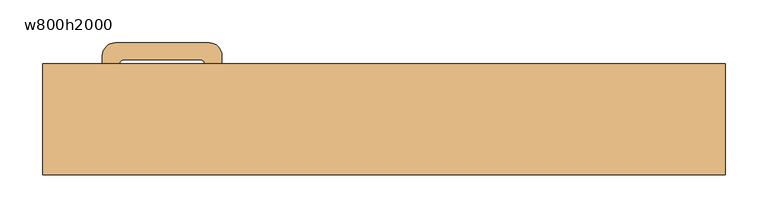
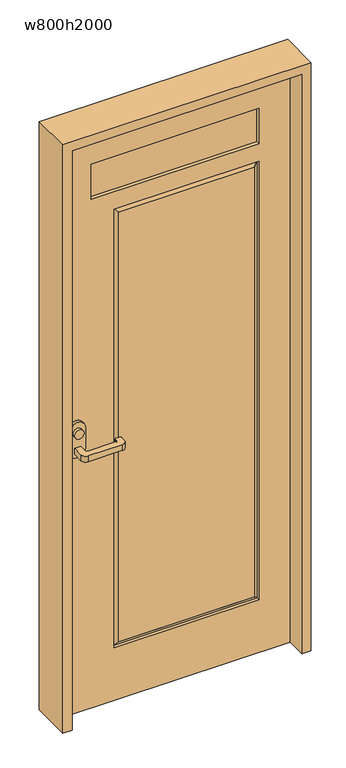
"""IFC4 building model written with IfcOpenShell, lengths in millimetres: door geometry, 片開戸CL2058 : w800h2000."""

import ifcopenshell
import ifcopenshell.guid

model = None  # the IFC model being written
_history = None  # IfcOwnerHistory: only IFC2X3 demands one
_inside = {}  # id of a spatial element -> (the spatial element, [elements in it])
_under = {}  # id of a project, library or spatial element -> (it, [spatial elements below it])
_declared = {}  # id of a project -> (the project, [libraries it declares])
_typed = {}  # id of a type object -> (the type object, [elements of that type])
_made_of = {}  # id of a material, layer set ... -> (it, [elements and type objects made of it])


def new_model(schema):
    """Start an empty IFC model of exactly this schema.

    Asked for "IFC4X3", IfcOpenShell would pick the latest addendum, in which some entities
    have other attributes; the version numbers below select the first issue.
    IFC2X3 requires an IfcOwnerHistory on every rooted entity: one is made here for all.
    """
    global model, _history
    if schema == "IFC4X3":
        model = ifcopenshell.file(schema_version=(4, 3, 0, 0))
    else:
        model = ifcopenshell.file(schema=schema)
    _inside.clear()
    _under.clear()
    _declared.clear()
    _typed.clear()
    _made_of.clear()
    _history = None
    if model.schema == "IFC2X3":
        org = make("IfcOrganization", Name="unknown")
        user = make(
            "IfcPersonAndOrganization",
            ThePerson=make("IfcPerson", FamilyName="unknown"),
            TheOrganization=org,
        )
        app = make(
            "IfcApplication",
            ApplicationDeveloper=org,
            Version="unknown",
            ApplicationFullName="unknown",
            ApplicationIdentifier="unknown",
        )
        _history = make(
            "IfcOwnerHistory",
            OwningUser=user,
            OwningApplication=app,
            ChangeAction="ADDED",
            CreationDate=0,
        )
    return model


def make(cls, **values):
    """One entity of the class cls with the attributes given. An attribute that is None is left unset."""
    return model.create_entity(
        cls, **{name: value for name, value in values.items() if value is not None}
    )


def rooted(cls, **values):
    """An entity with a GlobalId (a new one), such as an element, a storey or a relation."""
    return make(cls, GlobalId=ifcopenshell.guid.new(), OwnerHistory=_history, **values)


def si_unit(unit_type, name, prefix=None):
    """IfcSIUnit, for example si_unit("LENGTHUNIT", "METRE", prefix="MILLI")."""
    return make("IfcSIUnit", UnitType=unit_type, Prefix=prefix, Name=name)


def assignment(units):
    """IfcUnitAssignment: the units of a project."""
    return None if units is None else make("IfcUnitAssignment", Units=units)


def point(xyz):
    """IfcCartesianPoint."""
    return None if xyz is None else make("IfcCartesianPoint", Coordinates=xyz)


def direction(xyz):
    """IfcDirection."""
    return None if xyz is None else make("IfcDirection", DirectionRatios=xyz)


def frame(location, z_axis=None, x_axis=None):
    """IfcAxis2Placement3D, a coordinate frame: its origin and axes. An axis left out is left unset."""
    return make(
        "IfcAxis2Placement3D",
        Location=point(location),
        Axis=direction(z_axis),
        RefDirection=direction(x_axis),
    )


def frame_2d(location, x_axis=None):
    """IfcAxis2Placement2D, a coordinate frame in the plane: its origin and x axis."""
    return make(
        "IfcAxis2Placement2D", Location=point(location), RefDirection=direction(x_axis)
    )


def origin():
    """The frame at (0, 0, 0) with its axes left unset."""
    return frame((0.0, 0.0, 0.0))


def place(relative_to, where):
    """IfcLocalPlacement: puts the frame where relative to a parent placement (None: the world)."""
    return make(
        "IfcLocalPlacement", PlacementRelTo=relative_to, RelativePlacement=where
    )


def context(
    kind, dimensions, precision=None, world=None, true_north=None, identifier=None
):
    """IfcGeometricRepresentationContext, for example the 3D "Model" context."""
    return make(
        "IfcGeometricRepresentationContext",
        ContextIdentifier=identifier,
        ContextType=kind,
        CoordinateSpaceDimension=dimensions,
        Precision=precision,
        WorldCoordinateSystem=world,
        TrueNorth=true_north,
    )


def project(units=None, contexts=None):
    """IfcProject with its units and contexts."""
    return rooted(
        "IfcProject",
        Name="project",
        RepresentationContexts=contexts,
        UnitsInContext=assignment(units),
    )


def spatial(cls, under=None, at=None, **own):
    """A site, building, storey or space (cls), placed at a placement, below another one or the project."""
    s = rooted(cls, ObjectPlacement=at, **own)
    if under is not None:
        _under.setdefault(under.id(), (under, []))[1].append(s)
    return s


def polyline(points):
    """IfcPolyline through the points."""
    return make("IfcPolyline", Points=[point(p) for p in points])


def circle_curve(where, radius):
    """IfcCircle in the frame where."""
    return make("IfcCircle", Position=where, Radius=radius)


def trimmed(basis, trim1, trim2, sense, master):
    """IfcTrimmedCurve: the piece of a basis curve between two trims."""
    return make(
        "IfcTrimmedCurve",
        BasisCurve=basis,
        Trim1=trim1,
        Trim2=trim2,
        SenseAgreement=sense,
        MasterRepresentation=master,
    )


def segment(curve, same_sense, transition):
    """IfcCompositeCurveSegment."""
    return make(
        "IfcCompositeCurveSegment",
        Transition=transition,
        SameSense=same_sense,
        ParentCurve=curve,
    )


def composite_curve(segments, self_intersect=None):
    """IfcCompositeCurve: segments joined end to end."""
    return make("IfcCompositeCurve", Segments=segments, SelfIntersect=self_intersect)


def outline(outer, holes=None, kind="AREA"):
    """IfcArbitraryClosedProfileDef: a profile drawn as a closed curve; with holes, ...WithVoids."""
    if holes is None:
        return make("IfcArbitraryClosedProfileDef", ProfileType=kind, OuterCurve=outer)
    return make(
        "IfcArbitraryProfileDefWithVoids",
        ProfileType=kind,
        OuterCurve=outer,
        InnerCurves=holes,
    )


def extrude(swept, where, along, depth):
    """IfcExtrudedAreaSolid: the profile swept, set in the frame where, extruded along a direction by depth."""
    return make(
        "IfcExtrudedAreaSolid",
        SweptArea=swept,
        Position=where,
        ExtrudedDirection=direction(along),
        Depth=depth,
    )


def faces_of(points, faces, orient=None, outer=None):
    """IfcFace entities. A face is a list of loops; a loop is a list of indices into points, from 0.

    orient and outer hold one flag for each loop. By default every Orientation is true, the
    first loop of a face is its IfcFaceOuterBound and the others are IfcFaceBound.
    """
    made = []
    for i, loops in enumerate(faces):
        bounds = []
        for j, loop in enumerate(loops):
            is_outer = j == 0 if outer is None else outer[i][j]
            bounds.append(
                make(
                    "IfcFaceOuterBound" if is_outer else "IfcFaceBound",
                    Bound=make("IfcPolyLoop", Polygon=[points[k] for k in loop]),
                    Orientation=True if orient is None else orient[i][j],
                )
            )
        made.append(make("IfcFace", Bounds=bounds))
    return made


def faceted_brep(points, faces, orient=None, outer=None, voids=None):
    """IfcFacetedBrep: a solid bounded by flat faces; with voids (closed shells), ...WithVoids."""
    shared = [point(p) for p in points]
    hull = make("IfcClosedShell", CfsFaces=faces_of(shared, faces, orient, outer))
    if voids is None:
        return make("IfcFacetedBrep", Outer=hull)
    return make(
        "IfcFacetedBrepWithVoids",
        Outer=hull,
        Voids=[
            make(cls, CfsFaces=faces_of(shared, fs, o, b)) for cls, fs, o, b in voids
        ],
    )


def shape(context_of_items, identifier, shape_type, items):
    """IfcShapeRepresentation: the items that make up one representation, for example the "Body"."""
    return make(
        "IfcShapeRepresentation",
        ContextOfItems=context_of_items,
        RepresentationIdentifier=identifier,
        RepresentationType=shape_type,
        Items=items,
    )


def source(mapping_origin, context_of_items, identifier, shape_type, items):
    """IfcRepresentationMap: a shape defined once, which mapped items show again and again."""
    return make(
        "IfcRepresentationMap",
        MappingOrigin=mapping_origin,
        MappedRepresentation=shape(context_of_items, identifier, shape_type, items),
    )


def transform(
    local_origin,
    x_axis=None,
    y_axis=None,
    z_axis=None,
    scale=None,
    scale2=None,
    scale3=None,
    uniform=True,
):
    """IfcCartesianTransformationOperator3D, or its non-uniform kind. x_axis, y_axis, z_axis: its Axis1, 2, 3."""
    if uniform:
        return make(
            "IfcCartesianTransformationOperator3D",
            Axis1=direction(x_axis),
            Axis2=direction(y_axis),
            LocalOrigin=point(local_origin),
            Scale=scale,
            Axis3=direction(z_axis),
        )
    return make(
        "IfcCartesianTransformationOperator3DnonUniform",
        Axis1=direction(x_axis),
        Axis2=direction(y_axis),
        LocalOrigin=point(local_origin),
        Scale=scale,
        Axis3=direction(z_axis),
        Scale2=scale2,
        Scale3=scale3,
    )


def mapped(mapping_source, mapping_target):
    """IfcMappedItem: shows the shape of a source again, moved by a transform."""
    return make(
        "IfcMappedItem", MappingSource=mapping_source, MappingTarget=mapping_target
    )


def made_of(thing, what):
    """Note that an element or type object is made of a material, layer set ...; save() writes the relation."""
    if what is not None:
        _made_of.setdefault(what.id(), (what, []))[1].append(thing)
    return thing


def element(
    cls,
    number,
    at=None,
    inside=None,
    cuts=None,
    type_object=None,
    material=None,
    context=None,
    identifier="Body",
    shape_type=None,
    held_by="IfcProductDefinitionShape",
    body=None,
    shapes=None,
    **own,
):
    """One element of the class cls, such as IfcWall. Its Tag is "e" and its number.

    at: its placement. inside: the storey or other place that contains it. cuts: it is an
    opening in that element (IfcRelVoidsElement). A single representation is given by context,
    identifier, shape_type and body (its items); several are given by shapes. held_by: the class
    of the entity that holds the representations. save() writes the other relations.
    """
    e = rooted(cls, Tag="e%d" % number, ObjectPlacement=at, **own)
    if body is not None:
        shapes = [shape(context, identifier, shape_type, body)]
    if shapes is not None:
        e.Representation = make(held_by, Representations=shapes)
    if inside is not None:
        _inside.setdefault(inside.id(), (inside, []))[1].append(e)
    if cuts is not None:
        rooted(
            "IfcRelVoidsElement", RelatingBuildingElement=cuts, RelatedOpeningElement=e
        )
    if type_object is not None:
        _typed.setdefault(type_object.id(), (type_object, []))[1].append(e)
    return made_of(e, material)


def aggregate(whole, parts):
    """IfcRelAggregates: a whole, such as a stair, and the parts it consists of."""
    return rooted("IfcRelAggregates", RelatingObject=whole, RelatedObjects=parts)


def save(model, path):
    """Write the relations noted so far, then the file.

    IfcRelAggregates (storeys below a building ...), IfcRelContainedInSpatialStructure (elements
    in a storey), IfcRelDefinesByType, IfcRelAssociatesMaterial and IfcRelDeclares: one each for
    every whole, place, type object, material and project.
    """
    for whole, parts in _under.values():
        aggregate(whole, parts)
    for where, things in _inside.values():
        rooted(
            "IfcRelContainedInSpatialStructure",
            RelatedElements=things,
            RelatingStructure=where,
        )
    for kind, things in _typed.values():
        rooted("IfcRelDefinesByType", RelatedObjects=things, RelatingType=kind)
    for what, things in _made_of.values():
        rooted("IfcRelAssociatesMaterial", RelatedObjects=things, RelatingMaterial=what)
    for by, libraries in _declared.values():
        rooted("IfcRelDeclares", RelatingContext=by, RelatedDefinitions=libraries)
    model.write(path)


def w800h2000_ccb03061(model_context):
    return source(origin(), model_context, "Body", "SolidModel", [
        extrude(outline(composite_curve([segment(polyline([(-310.0, 65.0), (-310.0, 40.0), (-330.0, 40.0), (-330.0, 75.0)]), True, "CONTINUOUS"), segment(trimmed(circle_curve(frame_2d((-315.0, 75.0)), 15.0), [point((-330.0, 75.0))], [point((-315.0, 90.0))], False, "CARTESIAN"), True, "CONTINUOUS"), segment(polyline([(-315.0, 90.0), (-205.0, 90.0)]), True, "CONTINUOUS"), segment(trimmed(circle_curve(frame_2d((-205.0, 75.0)), 15.0), [point((-205.0, 90.0))], [point((-190.0, 75.0))], False, "CARTESIAN"), True, "CONTINUOUS"), segment(polyline([(-190.0, 75.0), (-190.0, 60.0)]), True, "CONTINUOUS"), segment(trimmed(circle_curve(frame_2d((-195.0, 60.0)), 5.0), [point((-190.0, 60.0))], [point((-195.0, 55.0))], False, "CARTESIAN"), True, "CONTINUOUS"), segment(polyline([(-195.0, 55.0), (-205.0, 55.0)]), True, "CONTINUOUS"), segment(trimmed(circle_curve(frame_2d((-205.0, 60.0)), 5.0), [point((-205.0, 55.0))], [point((-210.0, 60.0))], False, "CARTESIAN"), True, "CONTINUOUS"), segment(polyline([(-210.0, 60.0), (-210.0, 65.0)]), True, "CONTINUOUS"), segment(trimmed(circle_curve(frame_2d((-215.0, 65.0)), 5.0), [point((-210.0, 65.0))], [point((-215.0, 70.0))], True, "CARTESIAN"), True, "CONTINUOUS"), segment(polyline([(-215.0, 70.0), (-305.0, 70.0)]), True, "CONTINUOUS"), segment(trimmed(circle_curve(frame_2d((-305.0, 65.0)), 5.0), [point((-305.0, 70.0))], [point((-310.0, 65.0))], True, "CARTESIAN"), True, "CONTINUOUS")], self_intersect=False)), frame((0.0, 0.0, 890.0), z_axis=(0.0, 0.0, 1.0), x_axis=(1.0, 0.0, 0.0)), (0.0, 0.0, 1.0), 20.0),
        extrude(outline(composite_curve([segment(trimmed(circle_curve(frame_2d((-305.0, -35.0)), 5.0), [point((-310.0, -35.0))], [point((-305.0, -40.0))], True, "CARTESIAN"), True, "CONTINUOUS"), segment(polyline([(-305.0, -40.0), (-215.0, -40.0)]), True, "CONTINUOUS"), segment(trimmed(circle_curve(frame_2d((-215.0, -35.0)), 5.0), [point((-215.0, -40.0))], [point((-210.0, -35.0))], True, "CARTESIAN"), True, "CONTINUOUS"), segment(polyline([(-210.0, -35.0), (-210.0, -30.0)]), True, "CONTINUOUS"), segment(trimmed(circle_curve(frame_2d((-205.0, -30.0)), 5.0), [point((-210.0, -30.0))], [point((-205.0, -25.0))], False, "CARTESIAN"), True, "CONTINUOUS"), segment(polyline([(-205.0, -25.0), (-195.0, -25.0)]), True, "CONTINUOUS"), segment(trimmed(circle_curve(frame_2d((-195.0, -30.0)), 5.0), [point((-195.0, -25.0))], [point((-190.0, -30.0))], False, "CARTESIAN"), True, "CONTINUOUS"), segment(polyline([(-190.0, -30.0), (-190.0, -45.0)]), True, "CONTINUOUS"), segment(trimmed(circle_curve(frame_2d((-205.0, -45.0)), 15.0), [point((-190.0, -45.0))], [point((-205.0, -60.0))], False, "CARTESIAN"), True, "CONTINUOUS"), segment(polyline([(-205.0, -60.0), (-315.0, -60.0)]), True, "CONTINUOUS"), segment(trimmed(circle_curve(frame_2d((-315.0, -45.0)), 15.0), [point((-315.0, -60.0))], [point((-330.0, -45.0))], False, "CARTESIAN"), True, "CONTINUOUS"), segment(polyline([(-330.0, -45.0), (-330.0, -10.0), (-310.0, -10.0), (-310.0, -35.0)]), True, "CONTINUOUS")], self_intersect=False)), frame((0.0, 0.0, 890.0), z_axis=(0.0, 0.0, 1.0), x_axis=(1.0, 0.0, 0.0)), (0.0, 0.0, 1.0), 20.0),
        extrude(outline(composite_curve([segment(trimmed(circle_curve(frame_2d((960.0, -320.0)), 15.0), [point((960.0, -305.0))], [point((960.0, -335.0))], False, "CARTESIAN"), True, "CONTINUOUS"), segment(trimmed(circle_curve(frame_2d((960.0, -320.0)), 15.0), [point((960.0, -335.0))], [point((960.0, -305.0))], False, "CARTESIAN"), True, "CONTINUOUS")], self_intersect=False)), frame((0.0, -20.0, 0.0), z_axis=(0.0, 1.0, 0.0), x_axis=(0.0, 0.0, 1.0)), (0.0, 0.0, 1.0), 10.0),
        extrude(outline(composite_curve([segment(trimmed(circle_curve(frame_2d((970.0, -320.0)), 25.0), [point((970.0, -295.0))], [point((970.0, -345.0))], False, "CARTESIAN"), True, "CONTINUOUS"), segment(polyline([(970.0, -345.0), (900.0, -345.0)]), True, "CONTINUOUS"), segment(trimmed(circle_curve(frame_2d((900.0, -320.0)), 25.0), [point((900.0, -345.0))], [point((900.0, -295.0))], False, "CARTESIAN"), True, "CONTINUOUS"), segment(polyline([(900.0, -295.0), (970.0, -295.0)]), True, "CONTINUOUS")], self_intersect=False)), frame((0.0, -10.0, 0.0), z_axis=(0.0, 1.0, 0.0), x_axis=(0.0, 0.0, 1.0)), (0.0, 0.0, 1.0), 10.0),
        extrude(outline(composite_curve([segment(trimmed(circle_curve(frame_2d((960.0, -320.0)), 15.0), [point((960.0, -305.0))], [point((960.0, -335.0))], False, "CARTESIAN"), True, "CONTINUOUS"), segment(trimmed(circle_curve(frame_2d((960.0, -320.0)), 15.0), [point((960.0, -335.0))], [point((960.0, -305.0))], False, "CARTESIAN"), True, "CONTINUOUS")], self_intersect=False)), frame((0.0, 40.0, 0.0), z_axis=(0.0, 1.0, 0.0), x_axis=(0.0, 0.0, 1.0)), (0.0, 0.0, 1.0), 10.0),
        extrude(outline(composite_curve([segment(trimmed(circle_curve(frame_2d((970.0, -320.0)), 25.0), [point((970.0, -295.0))], [point((970.0, -345.0))], False, "CARTESIAN"), True, "CONTINUOUS"), segment(polyline([(970.0, -345.0), (900.0, -345.0)]), True, "CONTINUOUS"), segment(trimmed(circle_curve(frame_2d((900.0, -320.0)), 25.0), [point((900.0, -345.0))], [point((900.0, -295.0))], False, "CARTESIAN"), True, "CONTINUOUS"), segment(polyline([(900.0, -295.0), (970.0, -295.0)]), True, "CONTINUOUS")], self_intersect=False)), frame((0.0, 30.0, 0.0), z_axis=(0.0, 1.0, 0.0), x_axis=(0.0, 0.0, 1.0)), (0.0, 0.0, 1.0), 10.0),
        extrude(outline(polyline([(270.0, 12.5), (-270.0, 12.5), (-270.0, 17.5), (270.0, 17.5), (270.0, 12.5)])), frame((0.0, 0.0, 1730.0), z_axis=(0.0, 0.0, 1.0), x_axis=(1.0, 0.0, 0.0)), (0.0, 0.0, 1.0), 120.0),
        extrude(outline(polyline([(255.0, 0.0), (-181.5, 0.0), (-181.5, 30.0), (255.0, 30.0), (255.0, 0.0)])), frame((0.0, 0.0, 195.0), z_axis=(0.0, 0.0, 1.0), x_axis=(1.0, 0.0, 0.0)), (0.0, 0.0, 1.0), 1460.0),
        faceted_brep([(-181.5, 0.0, 1655.0), (-196.5, 10.0, 1670.0), (-196.5, 10.0, 180.0), (-181.5, 0.0, 195.0), (-181.5, 30.0, 1655.0), (-181.5, 30.0, 195.0), (-196.5, 20.0, 1670.0), (-196.5, 20.0, 180.0), (270.0, 10.0, 180.0), (255.0, 0.0, 195.0), (255.0, 30.0, 195.0), (270.0, 20.0, 180.0), (270.0, 10.0, 1670.0), (255.0, 0.0, 1655.0), (255.0, 30.0, 1655.0), (270.0, 20.0, 1670.0)], [[[0, 1, 2, 3]], [[4, 0, 3, 5]], [[6, 4, 5, 7]], [[1, 6, 7, 2]], [[3, 2, 8, 9]], [[5, 3, 9, 10]], [[7, 5, 10, 11]], [[2, 7, 11, 8]], [[9, 8, 12, 13]], [[10, 9, 13, 14]], [[11, 10, 14, 15]], [[8, 11, 15, 12]], [[13, 12, 1, 0]], [[14, 13, 0, 4]], [[15, 14, 4, 6]], [[12, 15, 6, 1]]]),
        extrude(outline(polyline([(1970.0, 370.0), (1970.0, -370.0), (0.0, -370.0), (0.0, 370.0), (1970.0, 370.0)]), holes=[polyline([(180.0, 270.0), (180.0, -196.5), (1670.0, -196.5), (1670.0, 270.0), (180.0, 270.0)]), polyline([(1730.0, -270.0), (1850.0, -270.0), (1850.0, 270.0), (1730.0, 270.0), (1730.0, -270.0)])]), frame((0.0, 0.0, 0.0), z_axis=(0.0, 1.0, 0.0), x_axis=(0.0, 0.0, 1.0)), (0.0, 0.0, 1.0), 30.0),
        extrude(outline(polyline([(0.0, 370.0), (0.0, 400.0), (2000.0, 400.0), (2000.0, -400.0), (0.0, -400.0), (0.0, -370.0), (1970.0, -370.0), (1970.0, 370.0), (0.0, 370.0)])), frame((0.0, -65.0, 0.0), z_axis=(0.0, 1.0, 0.0), x_axis=(0.0, 0.0, 1.0)), (0.0, 0.0, 1.0), 130.0),
    ])


if __name__ == "__main__":
    model = new_model("IFC4")
    model_context = context("Model", 3, world=origin())
    ifc_project = project(units=[si_unit("LENGTHUNIT", "METRE", prefix="MILLI")], contexts=[model_context])
    site = spatial("IfcSite", under=ifc_project)
    building = spatial("IfcBuilding", under=site)
    placement = place(None, origin())
    w800h2000_shape = w800h2000_ccb03061(model_context)
    element("IfcDoor", 1, ObjectType="片開戸CL2058 : w800h2000", at=placement, inside=building, context=model_context, shape_type="MappedRepresentation", body=[
        mapped(w800h2000_shape, transform((0.0, 0.0, 0.0), x_axis=(1.0, 0.0, 0.0), y_axis=(0.0, 1.0, 0.0), z_axis=(0.0, 0.0, 1.0))),
    ])
    save(model, "model.ifc")
